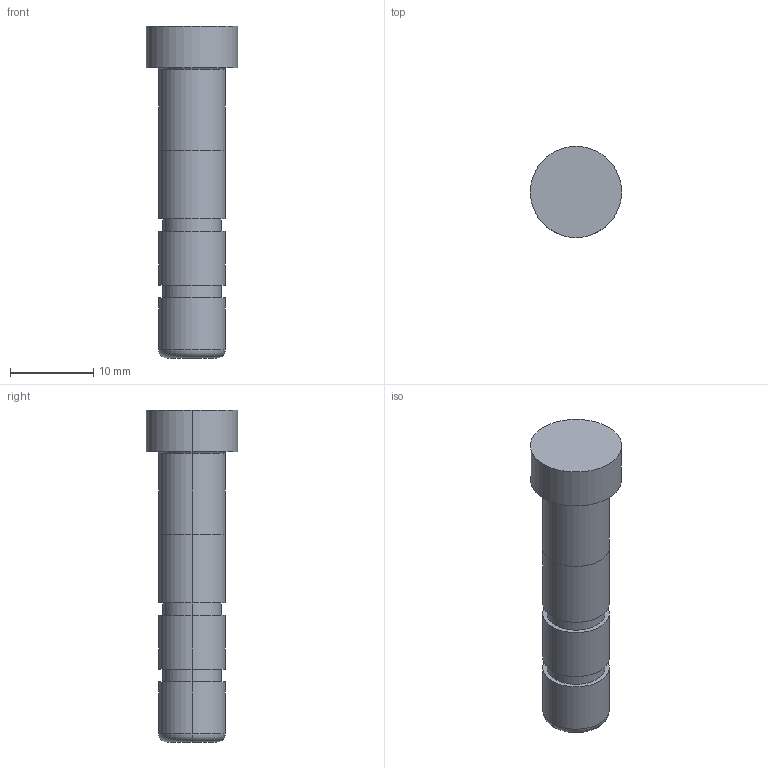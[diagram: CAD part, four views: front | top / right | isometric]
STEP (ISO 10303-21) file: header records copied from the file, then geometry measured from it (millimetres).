
FILE_DESCRIPTION(/* description */ (''),/* implementation_level */ '2;1');
FILE_NAME(/* name */ '3d_sgoh8-40_05211_r00.stp',/* time_stamp */ '2011-01-10T14:11:08+09:00',/* author */ ('MISUMI'),/* organization */ (''),/* preprocessor_version */ 'ST-DEVELOPER v11',/* originating_system */ 'UGS - NX 5.0',/* authorisation */ '');
FILE_SCHEMA (('CONFIG_CONTROL_DESIGN'));
Length unit declared in the file: millimetre
Products named in the file (1): 3d_sgoh8-40_05211_r00
Bounding box: 11 x 11 x 40 mm (x, y, z)
Volume: 2194.4 mm3; surface area: 1266.3 mm2
Topology: 1 solids, 1 shells, 25 faces, 48 edges, 30 vertices
Faces by surface type: cylinder 14, plane 7, torus 4
Entity records: 734 total; most frequent: DIRECTION 134, CARTESIAN_POINT 104, ORIENTED_EDGE 96, AXIS2_PLACEMENT_3D 60, EDGE_CURVE 48, CIRCLE 34, EDGE_LOOP 30, VERTEX_POINT 30
